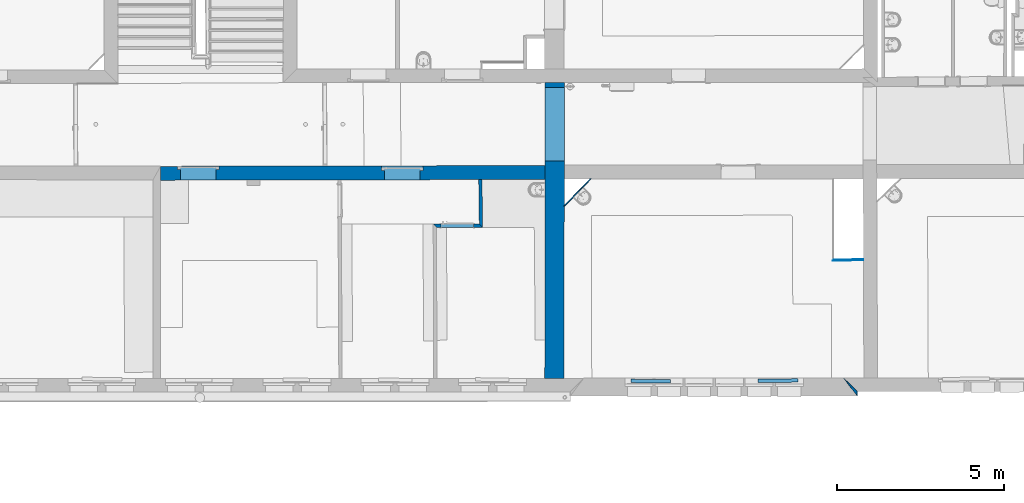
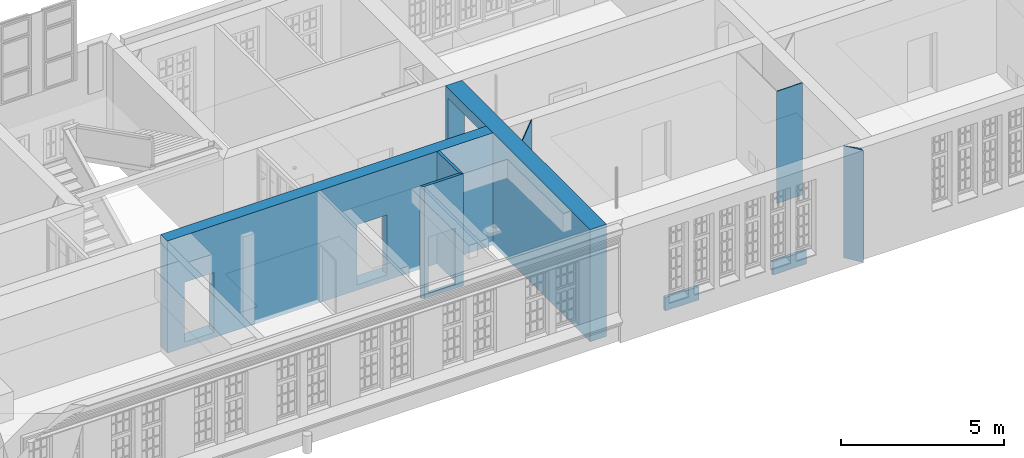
# One storey, part 22 of 90: 9 walls, 4 openings.
"""IFC2X3 building model written with IfcOpenShell, lengths in metres."""

from ifc_helpers import new_model, entity, si_unit, converted_unit, derived_unit, money_unit, direction, frame, origin_with_axes, origin_2d_with_axis, place, context, subcontext, project, spatial, polyline, rectangle, outline, extrude, material, layer, layer_set, layer_usage, type_object, element, save


model = new_model("IFC2X3")

# Units and contexts
model_context = context("Model", 3, precision=1e-05, world=origin_with_axes(), true_north=direction((0.0, 1.0)))
body_context = subcontext(model_context, "Body", "Model", "MODEL_VIEW")
ifc_project = project(units=[si_unit("LENGTHUNIT", "METRE"), si_unit("AREAUNIT", "SQUARE_METRE"), si_unit("VOLUMEUNIT", "CUBIC_METRE"), converted_unit("PLANEANGLEUNIT", "DEGREE", entity("IfcPlaneAngleMeasure", 0.0174532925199), si_unit("PLANEANGLEUNIT", "RADIAN"), dimensions=[0, 0, 0, 0, 0, 0, 0]), money_unit("EUR"), converted_unit("TIMEUNIT", "Year", entity("IfcTimeMeasure", 31556926.0), si_unit("TIMEUNIT", "SECOND"), dimensions=[0, 0, 1, 0, 0, 0, 0]), si_unit("MASSUNIT", "GRAM", prefix="KILO"), si_unit("THERMODYNAMICTEMPERATUREUNIT", "DEGREE_CELSIUS"), si_unit("LUMINOUSINTENSITYUNIT", "LUMEN"), si_unit("ENERGYUNIT", "JOULE", prefix="MEGA"), derived_unit("THERMALCONDUCTANCEUNIT", [(si_unit("POWERUNIT", "WATT"), 1), (si_unit("LENGTHUNIT", "METRE"), -1), (si_unit("THERMODYNAMICTEMPERATUREUNIT", "KELVIN"), -1)]), derived_unit("SPECIFICHEATCAPACITYUNIT", [(si_unit("ENERGYUNIT", "JOULE"), 1), (si_unit("MASSUNIT", "GRAM", prefix="KILO"), -1), (si_unit("THERMODYNAMICTEMPERATUREUNIT", "KELVIN"), -1)]), derived_unit("MASSDENSITYUNIT", [(si_unit("MASSUNIT", "GRAM", prefix="KILO"), 1), (si_unit("VOLUMEUNIT", "CUBIC_METRE"), -1)])], contexts=[model_context])

# Site, building, storey
site_placement = place(None, origin_with_axes())
site = spatial("IfcSite", under=ifc_project, at=site_placement, Name="Gelände", CompositionType="ELEMENT")
building_placement = place(site_placement, origin_with_axes())
building = spatial("IfcBuilding", under=site, at=building_placement, Name="Gebäude", CompositionType="ELEMENT")
storey_placement = place(building_placement, frame((0.0, 0.0, 3.7), z_axis=(0.0, 0.0, 1.0), x_axis=(1.0, 0.0, 0.0)))
storey = spatial("IfcBuildingStorey", under=building, at=storey_placement, Name="1.OBERGESCHOSS", CompositionType="ELEMENT", Elevation=3.7)

# Wall
ifc_material_1 = material(Name="05_ALLGEMEIN - TRAGENDE BAUTEILE")
ifc_layer_1 = layer(ifc_material_1, 0.4, ventilated="UNKNOWN")
ifc_layer_set_1 = layer_set([ifc_layer_1], Name="05_ALLGEMEIN - TRAGENDE BAUTEILE 0.4")
ifc_layer_usage_1 = layer_usage(ifc_layer_set_1, "AXIS2", "NEGATIVE", 0.4)
wall_type_1 = type_object("IfcWallType", Name="05_ALLGEMEIN - TRAGENDE BAUTEILE 400", PredefinedType="ELEMENTEDWALL")
wall_1_placement = place(storey_placement, frame((12.3581123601, 9.87290900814, -0.1), z_axis=(0.0, 0.0, 1.0), x_axis=(0.000174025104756, 0.999999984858, 0.0)))
element("IfcWallStandardCase", 1, at=wall_1_placement, inside=storey, type_object=wall_type_1, material=ifc_layer_usage_1, Name="Wand-033", ObjectType="ELEMENTEDWALL", context=body_context, shape_type="SweptSolid", body=[
    extrude(outline(polyline([(0.0, 0.0), (0.135323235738, 0.0), (0.534996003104, 0.4), (0.53, 0.4), (0.0, 0.0)])), origin_with_axes(), (0.0, 0.0, 1.0), 4.2),
])

# Wall, openings
ifc_layer_2 = layer(ifc_material_1, 0.42, ventilated="UNKNOWN")
ifc_layer_set_2 = layer_set([ifc_layer_2], Name="05_ALLGEMEIN - TRAGENDE BAUTEILE 0.42")
ifc_layer_usage_2 = layer_usage(ifc_layer_set_2, "AXIS2", "POSITIVE", 0.0)
wall_type_2 = type_object("IfcWallType", Name="05_ALLGEMEIN - TRAGENDE BAUTEILE 420", PredefinedType="ELEMENTEDWALL")
wall_2_placement = place(storey_placement, frame((3.56590091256, 16.7904941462, -0.1), z_axis=(0.0, 0.0, 1.0), x_axis=(-0.999998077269, -0.00196098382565, 0.0)))
wall_2 = element("IfcWallStandardCase", 2, at=wall_2_placement, inside=storey, type_object=wall_type_2, material=ifc_layer_usage_2, Name="Wand-042", ObjectType="ELEMENTEDWALL", context=body_context, shape_type="SweptSolid", body=[
    extrude(outline(polyline([(0.580003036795, 0.0), (12.1243064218, 0.0), (12.1248482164, 0.42), (0.581362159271, 0.42), (0.580003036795, 0.0)])), origin_with_axes(), (0.0, 0.0, 1.0), 4.2),
])
opening_1_placement = place(wall_2_placement, frame((4.86974200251, 0.0, 0.201), z_axis=(0.0, 0.0, 1.0), x_axis=(1.0, 0.0, 0.0)))
element("IfcOpeningElement", 3, at=opening_1_placement, cuts=wall_2, Name="Tür-022", context=body_context, shape_type="SweptSolid", body=[
    extrude(rectangle(XDim=1.05907517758, YDim=2.24387033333, at=origin_2d_with_axis()), frame((0.0, 0.14, 1.12193516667), z_axis=(0.0, -1.0, 0.0), x_axis=(-1.0, 0.0, 0.0)), (0.0, 0.0, -1.0), 0.7),
    extrude(rectangle(XDim=1.23907517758, YDim=2.33387033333, at=origin_2d_with_axis()), frame((0.0, 0.05, 1.16693516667), z_axis=(0.0, 1.0, 0.0), x_axis=(-1.0, 0.0, 0.0)), (0.0, 0.0, 1.0), 0.09),
    extrude(rectangle(XDim=1.23907517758, YDim=2.33387033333, at=origin_2d_with_axis()), frame((0.0, 0.05, 1.16693516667), z_axis=(0.0, 1.0, 0.0), x_axis=(-1.0, 0.0, 0.0)), (0.0, 0.0, -1.0), 0.47),
])
opening_2_placement = place(wall_2_placement, frame((10.9952235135, 0.0, 0.201), z_axis=(0.0, 0.0, 1.0), x_axis=(1.0, 0.0, 0.0)))
element("IfcOpeningElement", 4, at=opening_2_placement, cuts=wall_2, Name="Tür-022", context=body_context, shape_type="SweptSolid", body=[
    extrude(rectangle(XDim=1.05907517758, YDim=2.24387033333, at=origin_2d_with_axis()), frame((0.0, 0.1, 1.12193516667), z_axis=(0.0, 1.0, 0.0), x_axis=(1.0, 0.0, 0.0)), (0.0, 0.0, 1.0), 0.74),
    extrude(rectangle(XDim=1.23907517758, YDim=2.33387033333, at=origin_2d_with_axis()), frame((0.0, 0.00999999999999, 1.16693516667), z_axis=(0.0, -1.0, 0.0), x_axis=(1.0, 0.0, 0.0)), (0.0, 0.0, -1.0), 0.09),
    extrude(rectangle(XDim=1.23907517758, YDim=2.33387033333, at=origin_2d_with_axis()), frame((0.0, 0.00999999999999, 1.16693516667), z_axis=(0.0, -1.0, 0.0), x_axis=(1.0, 0.0, 0.0)), (0.0, 0.0, 1.0), 0.43),
])

# Walls
ifc_material_2 = material(Name="43_Gipskarton")
ifc_layer_3 = layer(ifc_material_2, 0.03, ventilated="UNKNOWN")
ifc_layer_set_3 = layer_set([ifc_layer_3], Name="43_Gipskarton 0.03")
ifc_layer_usage_3 = layer_usage(ifc_layer_set_3, "AXIS2", "NEGATIVE", 0.03)
wall_type_3 = type_object("IfcWallType", Name="43_Gipskarton 30", PredefinedType="ELEMENTEDWALL")
wall_3_placement = place(storey_placement, frame((3.56432794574, 15.5568045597, -0.1), z_axis=(0.0, 0.0, 1.0), x_axis=(0.698637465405, 0.71547585, 0.0)))
element("IfcWallStandardCase", 5, at=wall_3_placement, inside=storey, type_object=wall_type_3, material=ifc_layer_usage_3, Name="Wand-040", ObjectType="ELEMENTEDWALL", context=body_context, shape_type="SweptSolid", body=[
    extrude(outline(polyline([(0.0, 0.0), (1.16571483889, 0.0), (1.13641884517, 0.03), (0.0308015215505, 0.03), (0.0, 0.0)])), origin_with_axes(), (0.0, 0.0, 1.0), 4.2),
])
ifc_layer_usage_4 = layer_usage(ifc_layer_set_3, "AXIS2", "NEGATIVE", 0.03)
wall_4_placement = place(storey_placement, frame((11.6288466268, 13.9326545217, -0.1), z_axis=(0.0, 0.0, 1.0), x_axis=(0.999957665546, 0.00920147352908, 0.0)))
element("IfcWallStandardCase", 6, at=wall_4_placement, inside=storey, type_object=wall_type_3, material=ifc_layer_usage_4, Name="Wand-041", ObjectType="ELEMENTEDWALL", context=body_context, shape_type="SweptSolid", body=[
    extrude(outline(polyline([(0.0, 0.0), (0.919004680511, 0.0), (0.919166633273, 0.03), (0.0302774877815, 0.03), (0.0, 0.0)])), origin_with_axes(), (0.0, 0.0, 1.0), 4.2),
])
ifc_material_3 = material(Name="01_ALLGEMEIN - BAUTEIL")
ifc_layer_4 = layer(ifc_material_3, 0.105, ventilated="UNKNOWN")
ifc_layer_set_4 = layer_set([ifc_layer_4], Name="01_ALLGEMEIN - BAUTEIL 0.105")
ifc_layer_usage_5 = layer_usage(ifc_layer_set_4, "AXIS2", "NEGATIVE", 0.105)
wall_type_4 = type_object("IfcWallType", Name="01_ALLGEMEIN - BAUTEIL 105", PredefinedType="ELEMENTEDWALL")
wall_5_placement = place(storey_placement, frame((10.5755155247, 10.3888948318, 0.225519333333), z_axis=(0.0, 0.0, 1.0), x_axis=(-0.999934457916, -0.0114490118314, 0.0)))
element("IfcWallStandardCase", 7, at=wall_5_placement, inside=storey, type_object=wall_type_4, material=ifc_layer_usage_5, Name="Wand-035", ObjectType="ELEMENTEDWALL", context=body_context, shape_type="SweptSolid", body=[
    extrude(outline(polyline([(0.0, 0.0), (1.19019559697, 0.0), (1.19019559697, 0.105), (0.0, 0.105), (0.0, 0.0)])), origin_with_axes(), (0.0, 0.0, 1.0), 0.501014),
])
ifc_layer_usage_6 = layer_usage(ifc_layer_set_4, "AXIS2", "NEGATIVE", 0.105)
wall_6_placement = place(storey_placement, frame((6.75801839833, 10.3671413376, 0.225519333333), z_axis=(0.0, 0.0, 1.0), x_axis=(-0.999990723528, 0.00430730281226, 0.0)))
element("IfcWallStandardCase", 8, at=wall_6_placement, inside=storey, type_object=wall_type_4, material=ifc_layer_usage_6, Name="Wand-036", ObjectType="ELEMENTEDWALL", context=body_context, shape_type="SweptSolid", body=[
    extrude(outline(polyline([(0.0, 0.0), (1.19229114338, 0.0), (1.19229114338, 0.105), (0.0, 0.105), (0.0, 0.0)])), origin_with_axes(), (0.0, 0.0, 1.0), 0.501014),
])

# Wall, opening
ifc_layer_5 = layer(ifc_material_2, 0.1, ventilated="UNKNOWN")
ifc_layer_set_5 = layer_set([ifc_layer_5], Name="43_Gipskarton 0.1")
ifc_layer_usage_7 = layer_usage(ifc_layer_set_5, "AXIS2", "NEGATIVE", 0.1)
wall_type_5 = type_object("IfcWallType", Name="43_Gipskarton 100", PredefinedType="ELEMENTEDWALL")
wall_7_placement = place(storey_placement, frame((1.01277772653, 15.032133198, -0.1), z_axis=(0.0, 0.0, 1.0), x_axis=(-0.999995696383, -0.00293380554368, 0.0)))
wall_7 = element("IfcWallStandardCase", 9, at=wall_7_placement, inside=storey, type_object=wall_type_5, material=ifc_layer_usage_7, Name="Wand-041", ObjectType="ELEMENTEDWALL", context=body_context, shape_type="SweptSolid", body=[
    extrude(outline(polyline([(0.0, 0.0), (1.38464166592, 0.0), (1.2846373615, 0.1), (-0.101107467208, 0.1), (0.0, 0.0)])), origin_with_axes(), (0.0, 0.0, 1.0), 4.2),
])
opening_3_placement = place(wall_7_placement, frame((0.661615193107, 0.0, 0.156162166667), z_axis=(0.0, 0.0, 1.0), x_axis=(1.0, 0.0, 0.0)))
element("IfcOpeningElement", 10, at=opening_3_placement, cuts=wall_7, Name="Tür-022", context=body_context, shape_type="SweptSolid", body=[
    extrude(rectangle(XDim=0.967372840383, YDim=2.105367, at=origin_2d_with_axis()), frame((0.0, -0.1, 1.0526835), z_axis=(0.0, 1.0, 0.0), x_axis=(-1.0, 0.0, 0.0)), (0.0, 0.0, 1.0), 0.3),
])

# Wall
ifc_layer_usage_8 = layer_usage(ifc_layer_set_5, "AXIS2", "NEGATIVE", 0.1)
wall_8_placement = place(storey_placement, frame((0.988322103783, 16.7854395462, -0.1), z_axis=(0.0, 0.0, 1.0), x_axis=(0.0139469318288, -0.999902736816, 0.0)))
element("IfcWallStandardCase", 11, at=wall_8_placement, inside=storey, type_object=wall_type_5, material=ifc_layer_usage_8, Name="Wand-042", ObjectType="ELEMENTEDWALL", context=body_context, shape_type="SweptSolid", body=[
    extrude(outline(polyline([(0.420030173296, 0.0), (1.75347689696, 0.0), (1.85458436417, 0.1), (0.421228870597, 0.1), (0.420030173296, 0.0)])), origin_with_axes(), (0.0, 0.0, 1.0), 4.2),
])

# Wall, opening
ifc_layer_6 = layer(ifc_material_1, 0.58, ventilated="UNKNOWN")
ifc_layer_set_6 = layer_set([ifc_layer_6], Name="05_ALLGEMEIN - TRAGENDE BAUTEILE 0.58")
ifc_layer_usage_9 = layer_usage(ifc_layer_set_6, "AXIS2", "NEGATIVE", 0.58)
wall_type_6 = type_object("IfcWallType", Name="05_ALLGEMEIN - TRAGENDE BAUTEILE 580", PredefinedType="ELEMENTEDWALL")
wall_9_placement = place(storey_placement, frame((3.55723732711, 9.99557957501, -0.1), z_axis=(0.0, 0.0, 1.0), x_axis=(0.00127500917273, 0.999999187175, 0.0)))
wall_9 = element("IfcWallStandardCase", 12, at=wall_9_placement, inside=storey, type_object=wall_type_6, material=ifc_layer_usage_9, Name="Wand-039", ObjectType="ELEMENTEDWALL", context=body_context, shape_type="SweptSolid", body=[
    extrude(outline(polyline([(0.400000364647, 0.0), (9.28301640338, 0.0), (9.28210804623, 0.58), (0.399217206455, 0.58), (0.400000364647, 0.0)])), origin_with_axes(), (0.0, 0.0, 1.0), 4.2),
])
opening_4_placement = place(wall_9_placement, frame((8.03941788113, 0.0, 0.172195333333), z_axis=(0.0, 0.0, 1.0), x_axis=(1.0, 0.0, 0.0)))
element("IfcOpeningElement", 13, at=opening_4_placement, cuts=wall_9, Name="Tür-023", context=body_context, shape_type="SweptSolid", body=[
    extrude(rectangle(XDim=2.20601852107, YDim=3.638802, at=origin_2d_with_axis()), frame((0.0, 0.2, 1.819401), z_axis=(0.0, -1.0, 0.0), x_axis=(1.0, 0.0, 0.0)), (0.0, 0.0, -1.0), 0.96),
    extrude(rectangle(XDim=2.20601852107, YDim=3.638802, at=origin_2d_with_axis()), frame((0.0, 0.2, 1.819401), z_axis=(0.0, 1.0, 0.0), x_axis=(1.0, 0.0, 0.0)), (0.0, 0.0, -1.0), 0.78),
])

save(model, "model.ifc")
